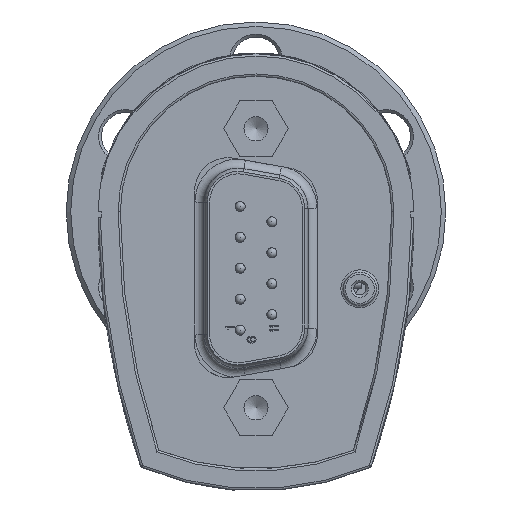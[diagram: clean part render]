
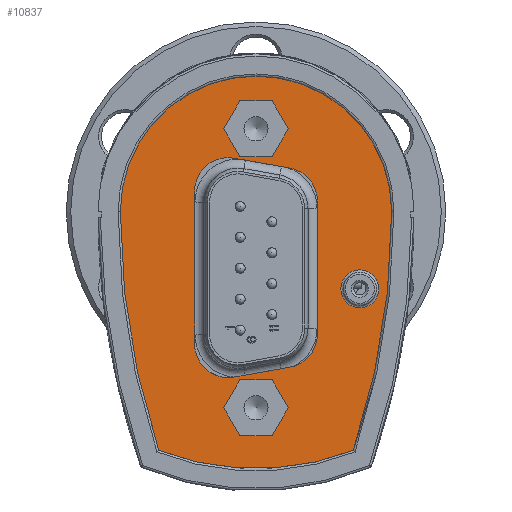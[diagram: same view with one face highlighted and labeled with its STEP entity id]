
A CAD part, left-side view. The second image highlights one B-rep face of the part: STEP entity #10837.
In plain terms, the highlighted planar face has unit normal (-1, 0, 0).
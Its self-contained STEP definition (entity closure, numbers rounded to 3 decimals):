
#681=LINE($,#16594,#1723);
#749=LINE($,#16904,#1791);
#750=LINE($,#16908,#1792);
#751=LINE($,#16911,#1793);
#752=LINE($,#16924,#1794);
#753=LINE($,#16926,#1795);
#754=LINE($,#16928,#1796);
#755=LINE($,#16930,#1797);
#756=LINE($,#16932,#1798);
#757=LINE($,#16933,#1799);
#1723=VECTOR($,#13443,5.077);
#1791=VECTOR($,#13737,13.7);
#1792=VECTOR($,#13740,5.077);
#1793=VECTOR($,#13743,11.937);
#1794=VECTOR($,#13754,2.887);
#1795=VECTOR($,#13755,2.887);
#1796=VECTOR($,#13756,2.887);
#1797=VECTOR($,#13757,2.887);
#1798=VECTOR($,#13758,2.887);
#1799=VECTOR($,#13759,2.887);
#2385=PLANE($,#11611);
#2662=FACE_BOUND($,#3758,.T.);
#2663=FACE_BOUND($,#3759,.T.);
#2664=FACE_BOUND($,#3760,.T.);
#2665=FACE_BOUND($,#3761,.T.);
#2666=FACE_BOUND($,#3762,.T.);
#3758=EDGE_LOOP($,(#8487));
#3759=EDGE_LOOP($,(#8488,#8489,#8490,#8491,#8492,#8493,#8494,#8495));
#3760=EDGE_LOOP($,(#8496));
#3761=EDGE_LOOP($,(#8497,#8498,#8499,#8500));
#3762=EDGE_LOOP($,(#8501,#8502,#8503,#8504,#8505,#8506));
#4197=CIRCLE($,#11499,3.);
#4262=CIRCLE($,#11612,1.7);
#4263=CIRCLE($,#11613,3.);
#4264=CIRCLE($,#11614,3.);
#4265=CIRCLE($,#11615,3.);
#4266=CIRCLE($,#11616,1.6);
#4267=CIRCLE($,#11617,12.15);
#4268=CIRCLE($,#11618,68.);
#4269=CIRCLE($,#11619,23.994);
#4270=CIRCLE($,#11620,68.);
#4937=VERTEX_POINT($,#16586);
#4938=VERTEX_POINT($,#16588);
#4939=VERTEX_POINT($,#16592);
#5066=VERTEX_POINT($,#16899);
#5067=VERTEX_POINT($,#16901);
#5068=VERTEX_POINT($,#16903);
#5069=VERTEX_POINT($,#16905);
#5070=VERTEX_POINT($,#16907);
#5071=VERTEX_POINT($,#16909);
#5072=VERTEX_POINT($,#16912);
#5073=VERTEX_POINT($,#16914);
#5074=VERTEX_POINT($,#16915);
#5075=VERTEX_POINT($,#16917);
#5076=VERTEX_POINT($,#16919);
#5077=VERTEX_POINT($,#16922);
#5078=VERTEX_POINT($,#16923);
#5079=VERTEX_POINT($,#16925);
#5080=VERTEX_POINT($,#16927);
#5081=VERTEX_POINT($,#16929);
#5082=VERTEX_POINT($,#16931);
#6157=EDGE_CURVE($,#4938,#4937,#4197,.T.);
#6160=EDGE_CURVE($,#4937,#4939,#681,.T.);
#6292=EDGE_CURVE($,#5066,#5066,#4262,.T.);
#6293=EDGE_CURVE($,#4939,#5067,#4263,.T.);
#6294=EDGE_CURVE($,#5067,#5068,#749,.T.);
#6295=EDGE_CURVE($,#5068,#5069,#4264,.T.);
#6296=EDGE_CURVE($,#5069,#5070,#750,.T.);
#6297=EDGE_CURVE($,#5070,#5071,#4265,.T.);
#6298=EDGE_CURVE($,#5071,#4938,#751,.T.);
#6299=EDGE_CURVE($,#5072,#5072,#4266,.T.);
#6300=EDGE_CURVE($,#5073,#5074,#4267,.T.);
#6301=EDGE_CURVE($,#5073,#5075,#4268,.T.);
#6302=EDGE_CURVE($,#5075,#5076,#4269,.T.);
#6303=EDGE_CURVE($,#5076,#5074,#4270,.T.);
#6304=EDGE_CURVE($,#5077,#5078,#752,.T.);
#6305=EDGE_CURVE($,#5078,#5079,#753,.T.);
#6306=EDGE_CURVE($,#5079,#5080,#754,.T.);
#6307=EDGE_CURVE($,#5080,#5081,#755,.T.);
#6308=EDGE_CURVE($,#5081,#5082,#756,.T.);
#6309=EDGE_CURVE($,#5082,#5077,#757,.T.);
#8487=ORIENTED_EDGE($,*,*,#6292,.F.);
#8488=ORIENTED_EDGE($,*,*,#6293,.T.);
#8489=ORIENTED_EDGE($,*,*,#6294,.T.);
#8490=ORIENTED_EDGE($,*,*,#6295,.T.);
#8491=ORIENTED_EDGE($,*,*,#6296,.T.);
#8492=ORIENTED_EDGE($,*,*,#6297,.T.);
#8493=ORIENTED_EDGE($,*,*,#6298,.T.);
#8494=ORIENTED_EDGE($,*,*,#6157,.T.);
#8495=ORIENTED_EDGE($,*,*,#6160,.T.);
#8496=ORIENTED_EDGE($,*,*,#6299,.T.);
#8497=ORIENTED_EDGE($,*,*,#6300,.F.);
#8498=ORIENTED_EDGE($,*,*,#6301,.T.);
#8499=ORIENTED_EDGE($,*,*,#6302,.T.);
#8500=ORIENTED_EDGE($,*,*,#6303,.T.);
#8501=ORIENTED_EDGE($,*,*,#6304,.T.);
#8502=ORIENTED_EDGE($,*,*,#6305,.T.);
#8503=ORIENTED_EDGE($,*,*,#6306,.T.);
#8504=ORIENTED_EDGE($,*,*,#6307,.T.);
#8505=ORIENTED_EDGE($,*,*,#6308,.T.);
#8506=ORIENTED_EDGE($,*,*,#6309,.T.);
#10837=ADVANCED_FACE($,(#2662,#2663,#2664,#2665,#2666),#2385,.T.);
#11499=AXIS2_PLACEMENT_3D($,#16589,#13437,#13438);
#11611=AXIS2_PLACEMENT_3D($,#16898,#13731,#13732);
#11612=AXIS2_PLACEMENT_3D($,#16900,#13733,#13734);
#11613=AXIS2_PLACEMENT_3D($,#16902,#13735,#13736);
#11614=AXIS2_PLACEMENT_3D($,#16906,#13738,#13739);
#11615=AXIS2_PLACEMENT_3D($,#16910,#13741,#13742);
#11616=AXIS2_PLACEMENT_3D($,#16913,#13744,#13745);
#11617=AXIS2_PLACEMENT_3D($,#16916,#13746,#13747);
#11618=AXIS2_PLACEMENT_3D($,#16918,#13748,#13749);
#11619=AXIS2_PLACEMENT_3D($,#16920,#13750,#13751);
#11620=AXIS2_PLACEMENT_3D($,#16921,#13752,#13753);
#13437=DIRECTION('center_axis',(1.,0.,0.));
#13438=DIRECTION('ref_axis',(0.,-0.174,-0.985));
#13443=DIRECTION($,(0.,0.985,-0.174));
#13731=DIRECTION('center_axis',(-1.,0.,0.));
#13732=DIRECTION('ref_axis',(0.,-1.,0.));
#13733=DIRECTION('center_axis',(-1.,0.,0.));
#13734=DIRECTION('ref_axis',(0.,1.,0.));
#13735=DIRECTION('center_axis',(1.,0.,0.));
#13736=DIRECTION('ref_axis',(0.,1.,0.));
#13737=DIRECTION($,(0.,0.,1.));
#13738=DIRECTION('center_axis',(1.,0.,0.));
#13739=DIRECTION('ref_axis',(0.,-0.174,0.985));
#13740=DIRECTION($,(0.,-0.985,-0.174));
#13741=DIRECTION('center_axis',(1.,0.,0.));
#13742=DIRECTION('ref_axis',(0.,-1.,0.));
#13743=DIRECTION($,(0.,0.,-1.));
#13744=DIRECTION('center_axis',(1.,0.,0.));
#13745=DIRECTION('ref_axis',(0.,1.,0.));
#13746=DIRECTION('center_axis',(1.,0.,0.));
#13747=DIRECTION('ref_axis',(0.,0.65,0.76));
#13748=DIRECTION('center_axis',(-1.,0.,0.));
#13749=DIRECTION('ref_axis',(0.,-1.,0.));
#13750=DIRECTION('center_axis',(-1.,0.,0.));
#13751=DIRECTION('ref_axis',(0.,-1.,0.));
#13752=DIRECTION('center_axis',(-1.,0.,0.));
#13753=DIRECTION('ref_axis',(0.,0.945,0.327));
#13754=DIRECTION($,(0.,1.,0.));
#13755=DIRECTION($,(0.,0.5,0.866));
#13756=DIRECTION($,(0.,-0.5,0.866));
#13757=DIRECTION($,(0.,-1.,0.));
#13758=DIRECTION($,(0.,-0.5,-0.866));
#13759=DIRECTION($,(0.,0.5,-0.866));
#16586=CARTESIAN_POINT('',(-64.5,-3.021,-13.923));
#16588=CARTESIAN_POINT('',(-64.5,-5.5,-10.968));
#16589=CARTESIAN_POINT('Origin',(-64.5,-2.5,-10.968));
#16592=CARTESIAN_POINT('',(-64.5,1.979,-14.804));
#16594=CARTESIAN_POINT($,(-64.5,0.147,-14.481));
#16898=CARTESIAN_POINT('Origin',(-64.5,0.,
-4.6));
#16899=CARTESIAN_POINT('',(-64.5,-11.,-6.9));
#16900=CARTESIAN_POINT('Origin',(-64.5,-9.3,-6.9));
#16901=CARTESIAN_POINT('',(-64.5,5.5,-11.85));
#16902=CARTESIAN_POINT('Origin',(-64.5,2.5,-11.85));
#16903=CARTESIAN_POINT('',(-64.5,5.5,1.85));
#16904=CARTESIAN_POINT($,(-64.5,5.5,-1.375));
#16905=CARTESIAN_POINT('',(-64.5,1.979,4.804));
#16906=CARTESIAN_POINT('Origin',(-64.5,2.5,1.85));
#16907=CARTESIAN_POINT('',(-64.5,-3.021,3.923));
#16908=CARTESIAN_POINT($,(-64.5,-2.285,4.053));
#16909=CARTESIAN_POINT('',(-64.5,-5.5,0.968));
#16910=CARTESIAN_POINT('Origin',(-64.5,-2.5,0.968));
#16911=CARTESIAN_POINT($,(-64.5,-5.5,-7.784));
#16912=CARTESIAN_POINT('',(-64.5,-1.6,7.55));
#16913=CARTESIAN_POINT('Origin',(-64.5,0.,
7.55));
#16914=CARTESIAN_POINT('',(-64.5,12.15,0.));
#16915=CARTESIAN_POINT('',(-64.5,-12.15,0.));
#16916=CARTESIAN_POINT('Origin',(-64.5,0.,
0.));
#16917=CARTESIAN_POINT('',(-64.5,8.709,-21.358));
#16918=CARTESIAN_POINT('Origin',(-64.5,-55.85,0.));
#16919=CARTESIAN_POINT('',(-64.5,-8.709,-21.358));
#16920=CARTESIAN_POINT('Origin',(-64.5,0.,
1.));
#16921=CARTESIAN_POINT('Origin',(-64.5,55.85,0.));
#16922=CARTESIAN_POINT('',(-64.5,-1.443,-20.05));
#16923=CARTESIAN_POINT('',(-64.5,1.443,-20.05));
#16924=CARTESIAN_POINT($,(-64.5,-1.443,-20.05));
#16925=CARTESIAN_POINT('',(-64.5,2.887,-17.55));
#16926=CARTESIAN_POINT($,(-64.5,1.443,-20.05));
#16927=CARTESIAN_POINT('',(-64.5,1.443,-15.05));
#16928=CARTESIAN_POINT($,(-64.5,2.887,-17.55));
#16929=CARTESIAN_POINT('',(-64.5,-1.443,-15.05));
#16930=CARTESIAN_POINT($,(-64.5,1.443,-15.05));
#16931=CARTESIAN_POINT('',(-64.5,-2.887,-17.55));
#16932=CARTESIAN_POINT($,(-64.5,-1.443,-15.05));
#16933=CARTESIAN_POINT($,(-64.5,-2.887,-17.55));
